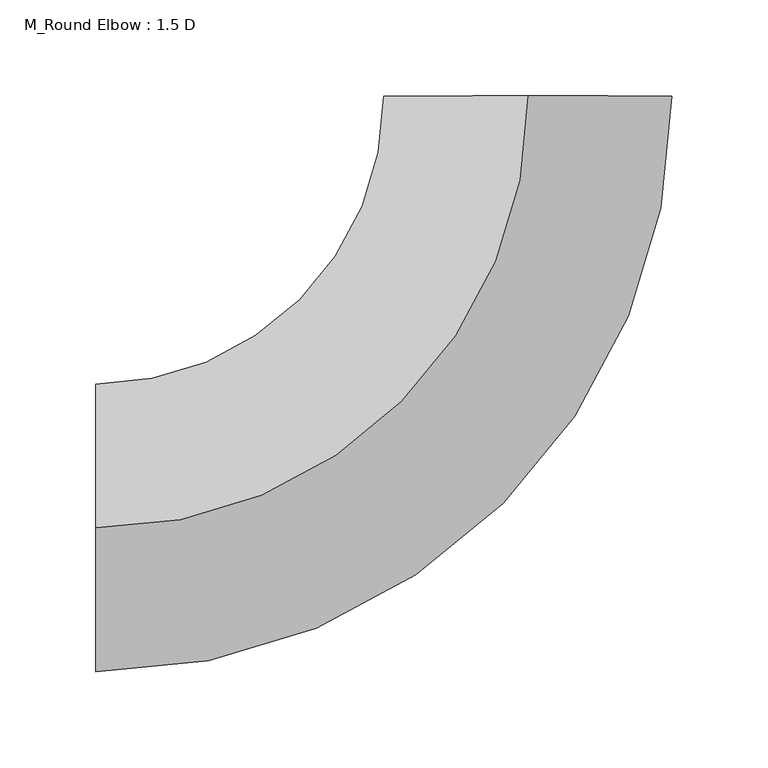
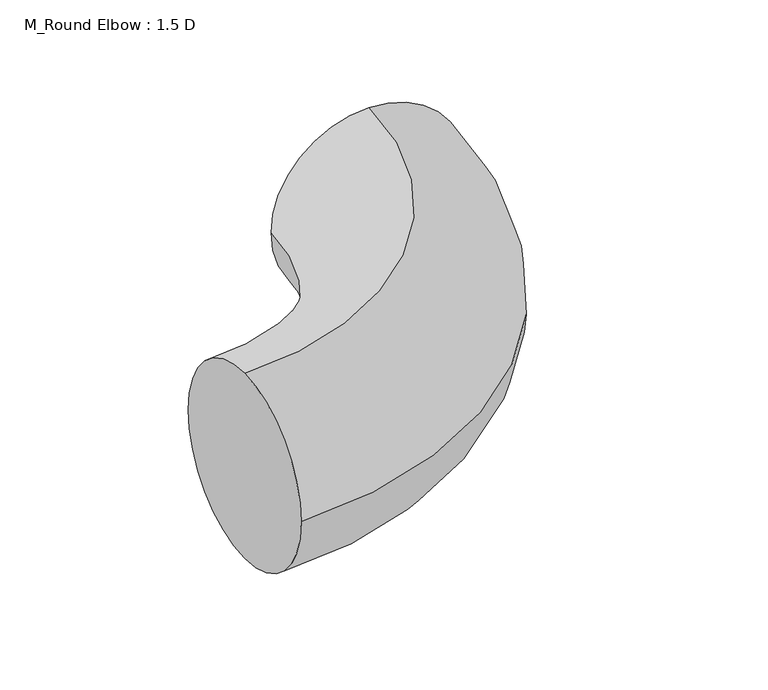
"""IFC4 building model written with IfcOpenShell, lengths in millimetres: duct fitting geometry, M_Round Elbow : 1.5 D."""

from ifc_helpers import new_model, si_unit, point, frame, origin, place, context, project, spatial, circle_curve, ellipse_curve, trimmed, source, transform, mapped, element, save
from ifc_brep_helpers import plane_surface, revolved_surface, advanced_brep


def m_round_elbow_1_5_d_65f16126(model_context):
    return source(origin(), model_context, "Body", "AdvancedBrep", [
        advanced_brep(
        [(-225.0058182, 0.0, 75.0), (-225.0058182, 75.0, 0.0), (-225.0058182, 0.0, -75.0), (-225.0058182, -75.0, 0.0), (-0.0058182, 225.0058181, 75.0), (74.9941817, 225.0077575, 0.0), (-0.0058182, 225.0058181, -75.0), (-75.0058182, 225.0038787, 0.0)],
        [
            (0, 1, circle_curve(frame((-225.0058182, 0.0, 0.0), z_axis=(-1.0, 0.0, 0.0), x_axis=(0.0, 1.0, 0.0)), 75.0)),
            (1, 2, circle_curve(frame((-225.0058182, 0.0, 0.0), z_axis=(-1.0, 0.0, 0.0), x_axis=(0.0, 1.0, 0.0)), 75.0)),
            (2, 3, circle_curve(frame((-225.0058182, 0.0, 0.0), z_axis=(-1.0, 0.0, 0.0), x_axis=(0.0, 1.0, 0.0)), 75.0)),
            (3, 0, circle_curve(frame((-225.0058182, 0.0, 0.0), z_axis=(-1.0, 0.0, 0.0), x_axis=(0.0, 1.0, 0.0)), 75.0)),
            (4, 5, circle_curve(frame((-0.0058182, 225.0058181, 0.0), z_axis=(-2.5858191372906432e-05, 0.999999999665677, 0.0), x_axis=(-0.999999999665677, -2.5858191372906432e-05, 0.0)), 75.0)),
            (5, 6, circle_curve(frame((-0.0058182, 225.0058181, 0.0), z_axis=(-2.5858191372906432e-05, 0.999999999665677, 0.0), x_axis=(-0.999999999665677, -2.5858191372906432e-05, 0.0)), 75.0)),
            (6, 7, circle_curve(frame((-0.0058182, 225.0058181, 0.0), z_axis=(-2.5858191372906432e-05, 0.999999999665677, 0.0), x_axis=(-0.999999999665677, -2.5858191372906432e-05, 0.0)), 75.0)),
            (7, 4, circle_curve(frame((-0.0058182, 225.0058181, 0.0), z_axis=(-2.5858191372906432e-05, 0.999999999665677, 0.0), x_axis=(-0.999999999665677, -2.5858191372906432e-05, 0.0)), 75.0)),
            (7, 1, circle_curve(frame((-225.0058182, 225.0, 0.0), z_axis=(0.0, 0.0, -1.0), x_axis=(0.0, -1.0, 0.0)), 150.0)),
            (0, 4, circle_curve(frame((-225.0058182, 225.0, 75.0), z_axis=(0.0, 0.0, 1.0), x_axis=(0.0, -1.0, 0.0)), 225.0)),
            (6, 2, circle_curve(frame((-225.0058182, 225.0, -75.0), z_axis=(0.0, 0.0, -1.0), x_axis=(0.0, -1.0, 0.0)), 225.0)),
            (5, 3, circle_curve(frame((-225.0058182, 225.0, 0.0), z_axis=(0.0, 0.0, -1.0), x_axis=(0.0, -1.0, 0.0)), 300.0)),
        ],
        [
            plane_surface(frame((-225.0058182, 0.0, 0.0), z_axis=(-1.0, 0.0, 0.0), x_axis=(0.0, 0.0, 1.0))),
            plane_surface(frame((-0.0058182, 225.0058181, 0.0), z_axis=(-2.5858191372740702e-05, 0.999999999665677, 0.0), x_axis=(0.0, 0.0, 1.0))),
            revolved_surface(trimmed(ellipse_curve(frame((-225.0058182, 0.0, 0.0), z_axis=(-1.0, 0.0, 0.0), x_axis=(0.0, 1.0, 0.0)), 75.0, 75.0), [point((-225.0058182, 0.0, 75.0))], [point((-225.0058182, 75.0, 0.0))], True, "CARTESIAN"), (-225.0058182, 225.0, 0.0), (0.0, 0.0, 1.0)),
            revolved_surface(trimmed(ellipse_curve(frame((-225.0058182, 0.0, 0.0), z_axis=(-1.0, 0.0, 0.0), x_axis=(0.0, 1.0, 0.0)), 75.0, 75.0), [point((-225.0058182, 75.0, 0.0))], [point((-225.0058182, 0.0, -75.0))], True, "CARTESIAN"), (-225.0058182, 225.0, 0.0), (0.0, 0.0, 1.0)),
            revolved_surface(trimmed(ellipse_curve(frame((-225.0058182, 0.0, 0.0), z_axis=(-1.0, 0.0, 0.0), x_axis=(0.0, 1.0, 0.0)), 75.0, 75.0), [point((-225.0058182, 0.0, -75.0))], [point((-225.0058182, -75.0, 0.0))], True, "CARTESIAN"), (-225.0058182, 225.0, 0.0), (0.0, 0.0, 1.0)),
            revolved_surface(trimmed(ellipse_curve(frame((-225.0058182, 0.0, 0.0), z_axis=(-1.0, 0.0, 0.0), x_axis=(0.0, 1.0, 0.0)), 75.0, 75.0), [point((-225.0058182, -75.0, 0.0))], [point((-225.0058182, 0.0, 75.0))], True, "CARTESIAN"), (-225.0058182, 225.0, 0.0), (0.0, 0.0, 1.0)),
        ],
        [
            (0, [[1, 2, 3, 4]]),
            (1, [[5, 6, 7, 8]]),
            (2, [[9, -1, 10, -8]]),
            (3, [[11, -2, -9, -7]]),
            (4, [[12, -3, -11, -6]]),
            (5, [[-10, -4, -12, -5]]),
        ],
    ),
        advanced_brep(
        [(-225.0058182, 0.0, 75.0), (-225.0058182, 75.0, 0.0), (-225.0058182, 0.0, -75.0), (-225.0058182, -75.0, 0.0), (-0.0058182, 225.0058181, 75.0), (74.9941817, 225.0077575, 0.0), (-0.0058182, 225.0058181, -75.0), (-75.0058182, 225.0038787, 0.0)],
        [
            (0, 1, circle_curve(frame((-225.0058182, 0.0, 0.0), z_axis=(-1.0, 0.0, 0.0), x_axis=(0.0, 1.0, 0.0)), 75.0)),
            (1, 2, circle_curve(frame((-225.0058182, 0.0, 0.0), z_axis=(-1.0, 0.0, 0.0), x_axis=(0.0, 1.0, 0.0)), 75.0)),
            (2, 3, circle_curve(frame((-225.0058182, 0.0, 0.0), z_axis=(-1.0, 0.0, 0.0), x_axis=(0.0, 1.0, 0.0)), 75.0)),
            (3, 0, circle_curve(frame((-225.0058182, 0.0, 0.0), z_axis=(-1.0, 0.0, 0.0), x_axis=(0.0, 1.0, 0.0)), 75.0)),
            (4, 5, circle_curve(frame((-0.0058182, 225.0058181, 0.0), z_axis=(-2.5858191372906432e-05, 0.999999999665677, 0.0), x_axis=(-0.999999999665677, -2.5858191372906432e-05, 0.0)), 75.0)),
            (5, 6, circle_curve(frame((-0.0058182, 225.0058181, 0.0), z_axis=(-2.5858191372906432e-05, 0.999999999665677, 0.0), x_axis=(-0.999999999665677, -2.5858191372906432e-05, 0.0)), 75.0)),
            (6, 7, circle_curve(frame((-0.0058182, 225.0058181, 0.0), z_axis=(-2.5858191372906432e-05, 0.999999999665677, 0.0), x_axis=(-0.999999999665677, -2.5858191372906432e-05, 0.0)), 75.0)),
            (7, 4, circle_curve(frame((-0.0058182, 225.0058181, 0.0), z_axis=(-2.5858191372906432e-05, 0.999999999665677, 0.0), x_axis=(-0.999999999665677, -2.5858191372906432e-05, 0.0)), 75.0)),
            (7, 1, circle_curve(frame((-225.0058182, 225.0, 0.0), z_axis=(0.0, 0.0, -1.0), x_axis=(0.0, -1.0, 0.0)), 150.0)),
            (0, 4, circle_curve(frame((-225.0058182, 225.0, 75.0), z_axis=(0.0, 0.0, 1.0), x_axis=(0.0, -1.0, 0.0)), 225.0)),
            (6, 2, circle_curve(frame((-225.0058182, 225.0, -75.0), z_axis=(0.0, 0.0, -1.0), x_axis=(0.0, -1.0, 0.0)), 225.0)),
            (5, 3, circle_curve(frame((-225.0058182, 225.0, 0.0), z_axis=(0.0, 0.0, -1.0), x_axis=(0.0, -1.0, 0.0)), 300.0)),
        ],
        [
            plane_surface(frame((-225.0058182, 0.0, 0.0), z_axis=(-1.0, 0.0, 0.0), x_axis=(0.0, 0.0, 1.0))),
            plane_surface(frame((-0.0058182, 225.0058181, 0.0), z_axis=(-2.5858191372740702e-05, 0.999999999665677, 0.0), x_axis=(0.0, 0.0, 1.0))),
            revolved_surface(trimmed(ellipse_curve(frame((-225.0058182, 0.0, 0.0), z_axis=(-1.0, 0.0, 0.0), x_axis=(0.0, 1.0, 0.0)), 75.0, 75.0), [point((-225.0058182, 0.0, 75.0))], [point((-225.0058182, 75.0, 0.0))], True, "CARTESIAN"), (-225.0058182, 225.0, 0.0), (0.0, 0.0, 1.0)),
            revolved_surface(trimmed(ellipse_curve(frame((-225.0058182, 0.0, 0.0), z_axis=(-1.0, 0.0, 0.0), x_axis=(0.0, 1.0, 0.0)), 75.0, 75.0), [point((-225.0058182, 75.0, 0.0))], [point((-225.0058182, 0.0, -75.0))], True, "CARTESIAN"), (-225.0058182, 225.0, 0.0), (0.0, 0.0, 1.0)),
            revolved_surface(trimmed(ellipse_curve(frame((-225.0058182, 0.0, 0.0), z_axis=(-1.0, 0.0, 0.0), x_axis=(0.0, 1.0, 0.0)), 75.0, 75.0), [point((-225.0058182, 0.0, -75.0))], [point((-225.0058182, -75.0, 0.0))], True, "CARTESIAN"), (-225.0058182, 225.0, 0.0), (0.0, 0.0, 1.0)),
            revolved_surface(trimmed(ellipse_curve(frame((-225.0058182, 0.0, 0.0), z_axis=(-1.0, 0.0, 0.0), x_axis=(0.0, 1.0, 0.0)), 75.0, 75.0), [point((-225.0058182, -75.0, 0.0))], [point((-225.0058182, 0.0, 75.0))], True, "CARTESIAN"), (-225.0058182, 225.0, 0.0), (0.0, 0.0, 1.0)),
        ],
        [
            (0, [[1, 2, 3, 4]]),
            (1, [[5, 6, 7, 8]]),
            (2, [[9, -1, 10, -8]]),
            (3, [[11, -2, -9, -7]]),
            (4, [[12, -3, -11, -6]]),
            (5, [[-10, -4, -12, -5]]),
        ],
    ),
        advanced_brep(
        [(-225.0058182, 0.0, 75.0), (-225.0058182, 75.0, 0.0), (-225.0058182, 0.0, -75.0), (-225.0058182, -75.0, 0.0), (-0.0058182, 225.0058181, 75.0), (74.9941817, 225.0077575, 0.0), (-0.0058182, 225.0058181, -75.0), (-75.0058182, 225.0038787, 0.0)],
        [
            (0, 1, circle_curve(frame((-225.0058182, 0.0, 0.0), z_axis=(-1.0, 0.0, 0.0), x_axis=(0.0, 1.0, 0.0)), 75.0)),
            (1, 2, circle_curve(frame((-225.0058182, 0.0, 0.0), z_axis=(-1.0, 0.0, 0.0), x_axis=(0.0, 1.0, 0.0)), 75.0)),
            (2, 3, circle_curve(frame((-225.0058182, 0.0, 0.0), z_axis=(-1.0, 0.0, 0.0), x_axis=(0.0, 1.0, 0.0)), 75.0)),
            (3, 0, circle_curve(frame((-225.0058182, 0.0, 0.0), z_axis=(-1.0, 0.0, 0.0), x_axis=(0.0, 1.0, 0.0)), 75.0)),
            (4, 5, circle_curve(frame((-0.0058182, 225.0058181, 0.0), z_axis=(-2.5858191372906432e-05, 0.999999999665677, 0.0), x_axis=(-0.999999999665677, -2.5858191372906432e-05, 0.0)), 75.0)),
            (5, 6, circle_curve(frame((-0.0058182, 225.0058181, 0.0), z_axis=(-2.5858191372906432e-05, 0.999999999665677, 0.0), x_axis=(-0.999999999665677, -2.5858191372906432e-05, 0.0)), 75.0)),
            (6, 7, circle_curve(frame((-0.0058182, 225.0058181, 0.0), z_axis=(-2.5858191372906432e-05, 0.999999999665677, 0.0), x_axis=(-0.999999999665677, -2.5858191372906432e-05, 0.0)), 75.0)),
            (7, 4, circle_curve(frame((-0.0058182, 225.0058181, 0.0), z_axis=(-2.5858191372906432e-05, 0.999999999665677, 0.0), x_axis=(-0.999999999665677, -2.5858191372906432e-05, 0.0)), 75.0)),
            (7, 1, circle_curve(frame((-225.0058182, 225.0, 0.0), z_axis=(0.0, 0.0, -1.0), x_axis=(0.0, -1.0, 0.0)), 150.0)),
            (0, 4, circle_curve(frame((-225.0058182, 225.0, 75.0), z_axis=(0.0, 0.0, 1.0), x_axis=(0.0, -1.0, 0.0)), 225.0)),
            (6, 2, circle_curve(frame((-225.0058182, 225.0, -75.0), z_axis=(0.0, 0.0, -1.0), x_axis=(0.0, -1.0, 0.0)), 225.0)),
            (5, 3, circle_curve(frame((-225.0058182, 225.0, 0.0), z_axis=(0.0, 0.0, -1.0), x_axis=(0.0, -1.0, 0.0)), 300.0)),
        ],
        [
            plane_surface(frame((-225.0058182, 0.0, 0.0), z_axis=(-1.0, 0.0, 0.0), x_axis=(0.0, 0.0, 1.0))),
            plane_surface(frame((-0.0058182, 225.0058181, 0.0), z_axis=(-2.5858191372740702e-05, 0.999999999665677, 0.0), x_axis=(0.0, 0.0, 1.0))),
            revolved_surface(trimmed(ellipse_curve(frame((-225.0058182, 0.0, 0.0), z_axis=(-1.0, 0.0, 0.0), x_axis=(0.0, 1.0, 0.0)), 75.0, 75.0), [point((-225.0058182, 0.0, 75.0))], [point((-225.0058182, 75.0, 0.0))], True, "CARTESIAN"), (-225.0058182, 225.0, 0.0), (0.0, 0.0, 1.0)),
            revolved_surface(trimmed(ellipse_curve(frame((-225.0058182, 0.0, 0.0), z_axis=(-1.0, 0.0, 0.0), x_axis=(0.0, 1.0, 0.0)), 75.0, 75.0), [point((-225.0058182, 75.0, 0.0))], [point((-225.0058182, 0.0, -75.0))], True, "CARTESIAN"), (-225.0058182, 225.0, 0.0), (0.0, 0.0, 1.0)),
            revolved_surface(trimmed(ellipse_curve(frame((-225.0058182, 0.0, 0.0), z_axis=(-1.0, 0.0, 0.0), x_axis=(0.0, 1.0, 0.0)), 75.0, 75.0), [point((-225.0058182, 0.0, -75.0))], [point((-225.0058182, -75.0, 0.0))], True, "CARTESIAN"), (-225.0058182, 225.0, 0.0), (0.0, 0.0, 1.0)),
            revolved_surface(trimmed(ellipse_curve(frame((-225.0058182, 0.0, 0.0), z_axis=(-1.0, 0.0, 0.0), x_axis=(0.0, 1.0, 0.0)), 75.0, 75.0), [point((-225.0058182, -75.0, 0.0))], [point((-225.0058182, 0.0, 75.0))], True, "CARTESIAN"), (-225.0058182, 225.0, 0.0), (0.0, 0.0, 1.0)),
        ],
        [
            (0, [[1, 2, 3, 4]]),
            (1, [[5, 6, 7, 8]]),
            (2, [[9, -1, 10, -8]]),
            (3, [[11, -2, -9, -7]]),
            (4, [[12, -3, -11, -6]]),
            (5, [[-10, -4, -12, -5]]),
        ],
    ),
    ])


if __name__ == "__main__":
    model = new_model("IFC4")
    model_context = context("Model", 3, world=origin())
    ifc_project = project(units=[si_unit("LENGTHUNIT", "METRE", prefix="MILLI")], contexts=[model_context])
    site = spatial("IfcSite", under=ifc_project)
    building = spatial("IfcBuilding", under=site)
    placement = place(None, origin())
    m_round_elbow_1_5_d_shape = m_round_elbow_1_5_d_65f16126(model_context)
    element("IfcDuctFitting", 1, ObjectType="M_Round Elbow : 1.5 D", at=placement, inside=building, context=model_context, shape_type="MappedRepresentation", body=[
        mapped(m_round_elbow_1_5_d_shape, transform((0.0, 0.0, 0.0), x_axis=(1.0, 0.0, 0.0), y_axis=(0.0, 1.0, 0.0), z_axis=(0.0, 0.0, 1.0))),
    ])
    save(model, "model.ifc")
